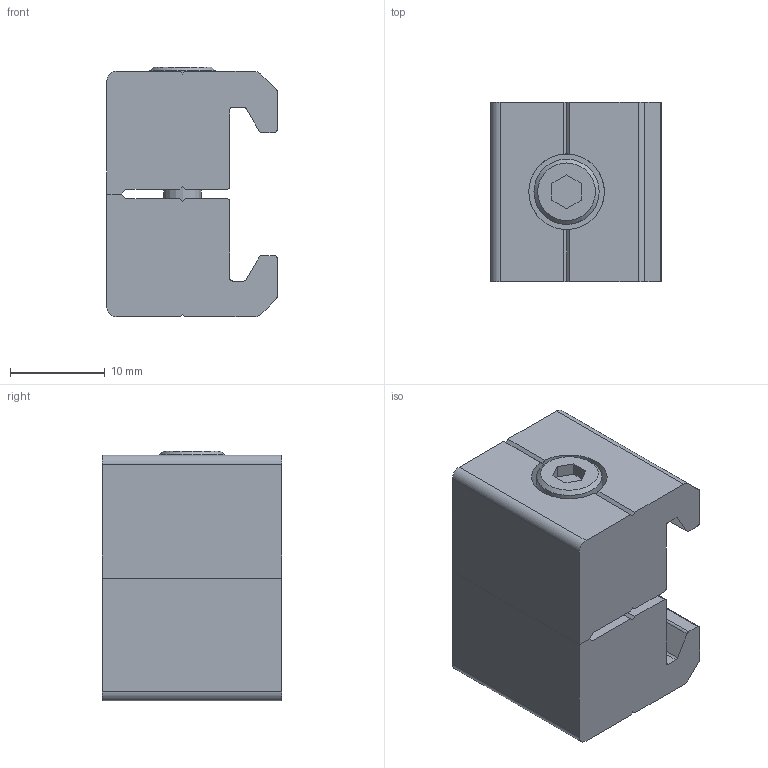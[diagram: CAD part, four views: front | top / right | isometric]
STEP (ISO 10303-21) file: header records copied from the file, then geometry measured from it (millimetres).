
FILE_DESCRIPTION(('STEP AP214'),'1');
FILE_NAME('SL2S-L19.stp','2016-10-19T08:42:51',(' '),(' '),'Spatial InterOp 3D',' ',' ');
FILE_SCHEMA(('automotive_design'));
Length unit declared in the file: millimetre
Products named in the file (4): SL2S-L19; SL2H-L19; ねじ: 穴付き - M4.0 x 20.0; SL2T-L19
Assembly tree (3 placements, depth 2):
  SL2S-L19
    SL2H-L19
    ねじ: 穴付き - M4.0 x 20.0
    SL2T-L19
Bounding box: 18 x 19 x 26.44 mm (x, y, z)
Volume: 7013.7 mm3; surface area: 3923.2 mm2
Topology: 3 solids, 3 shells, 82 faces, 225 edges, 148 vertices
Faces by surface type: plane 59, cylinder 21, cone 2
Full cylindrical faces by diameter (mm): 4 x2, 4.5 x1, 6.9 x1, 8 x1
Entity records: 3319 total; most frequent: DIRECTION 454, CARTESIAN_POINT 452, ORIENTED_EDGE 436, EDGE_CURVE 218, LINE 154, VECTOR 154, AXIS2_PLACEMENT_3D 150, VERTEX_POINT 148
